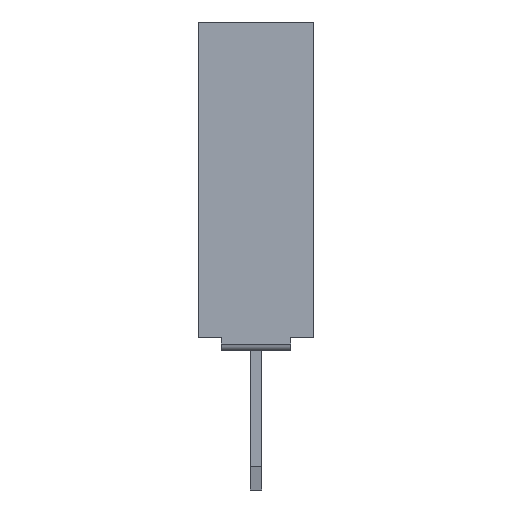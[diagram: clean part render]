
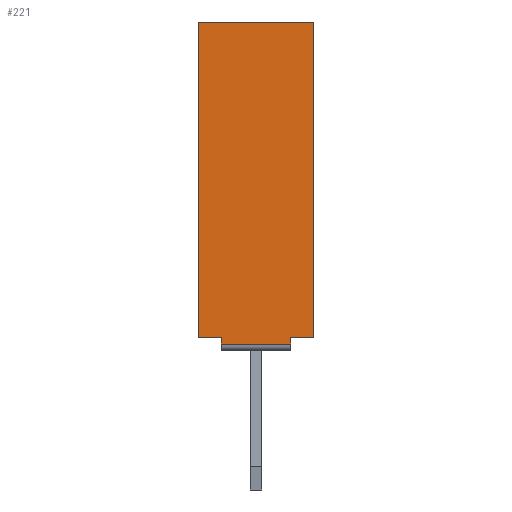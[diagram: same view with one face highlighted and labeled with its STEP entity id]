
A CAD part, front view. The second image highlights one B-rep face of the part: STEP entity #221.
In plain terms, the highlighted planar face has unit normal (0, -1, 0).
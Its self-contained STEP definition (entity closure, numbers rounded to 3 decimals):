
#221=ADVANCED_FACE('',(#1561),#922,.T.);
#922=PLANE('',#12544);
#1561=FACE_OUTER_BOUND('',#2381,.T.);
#2381=EDGE_LOOP('',(#3264,#3265,#3266,#3267,#3268,#3269,#3270,#3271));
#3264=ORIENTED_EDGE('',*,*,#7784,.T.);
#3265=ORIENTED_EDGE('',*,*,#7785,.T.);
#3266=ORIENTED_EDGE('',*,*,#7786,.F.);
#3267=ORIENTED_EDGE('',*,*,#7787,.T.);
#3268=ORIENTED_EDGE('',*,*,#7788,.T.);
#3269=ORIENTED_EDGE('',*,*,#7780,.T.);
#3270=ORIENTED_EDGE('',*,*,#7789,.F.);
#3271=ORIENTED_EDGE('',*,*,#7790,.T.);
#6680=VERTEX_POINT('',#16848);
#6681=VERTEX_POINT('',#16849);
#6684=VERTEX_POINT('',#16857);
#6685=VERTEX_POINT('',#16858);
#6686=VERTEX_POINT('',#16860);
#6687=VERTEX_POINT('',#16862);
#6688=VERTEX_POINT('',#16864);
#6689=VERTEX_POINT('',#16867);
#7780=EDGE_CURVE('',#6680,#6681,#9490,.T.);
#7784=EDGE_CURVE('',#6684,#6685,#9494,.T.);
#7785=EDGE_CURVE('',#6685,#6686,#9495,.T.);
#7786=EDGE_CURVE('',#6687,#6686,#9496,.T.);
#7787=EDGE_CURVE('',#6687,#6688,#9497,.T.);
#7788=EDGE_CURVE('',#6688,#6680,#9498,.T.);
#7789=EDGE_CURVE('',#6689,#6681,#9499,.T.);
#7790=EDGE_CURVE('',#6689,#6684,#9500,.T.);
#9490=LINE('',#16847,#11076);
#9494=LINE('',#16856,#11080);
#9495=LINE('',#16859,#11081);
#9496=LINE('',#16861,#11082);
#9497=LINE('',#16863,#11083);
#9498=LINE('',#16865,#11084);
#9499=LINE('',#16866,#11085);
#9500=LINE('',#16868,#11086);
#11076=VECTOR('',#13490,1.);
#11080=VECTOR('',#13496,1.);
#11081=VECTOR('',#13497,1.);
#11082=VECTOR('',#13498,1.);
#11083=VECTOR('',#13499,1.);
#11084=VECTOR('',#13500,1.);
#11085=VECTOR('',#13501,1.);
#11086=VECTOR('',#13502,1.);
#12544=AXIS2_PLACEMENT_3D('',#16869,#13503,#13504);
#13490=DIRECTION('',(-1.,0.,0.));
#13496=DIRECTION('',(0.,0.,-1.));
#13497=DIRECTION('',(1.,0.,0.));
#13498=DIRECTION('',(0.,0.,-1.));
#13499=DIRECTION('',(1.,0.,0.));
#13500=DIRECTION('',(0.,0.,1.));
#13501=DIRECTION('',(0.,0.,1.));
#13502=DIRECTION('',(1.,0.,0.));
#13503=DIRECTION('',(0.,-1.,0.));
#13504=DIRECTION('',(0.,0.,-1.));
#16847=CARTESIAN_POINT('',(1.25,0.,6.8));
#16848=CARTESIAN_POINT('',(2.5,0.,6.8));
#16849=CARTESIAN_POINT('',(0.,0.,6.8));
#16856=CARTESIAN_POINT('',(0.5,0.,-0.3));
#16857=CARTESIAN_POINT('',(0.5,0.,0.));
#16858=CARTESIAN_POINT('',(0.5,0.,-0.15));
#16859=CARTESIAN_POINT('',(1.25,0.,-0.15));
#16860=CARTESIAN_POINT('',(2.,0.,-0.15));
#16861=CARTESIAN_POINT('',(2.,0.,-0.3));
#16862=CARTESIAN_POINT('',(2.,0.,0.));
#16863=CARTESIAN_POINT('',(1.25,0.,0.));
#16864=CARTESIAN_POINT('',(2.5,0.,0.));
#16865=CARTESIAN_POINT('',(2.5,0.,0.));
#16866=CARTESIAN_POINT('',(0.,0.,0.));
#16867=CARTESIAN_POINT('',(0.,0.,0.));
#16868=CARTESIAN_POINT('',(1.25,0.,0.));
#16869=CARTESIAN_POINT('',(1.25,0.,0.));
